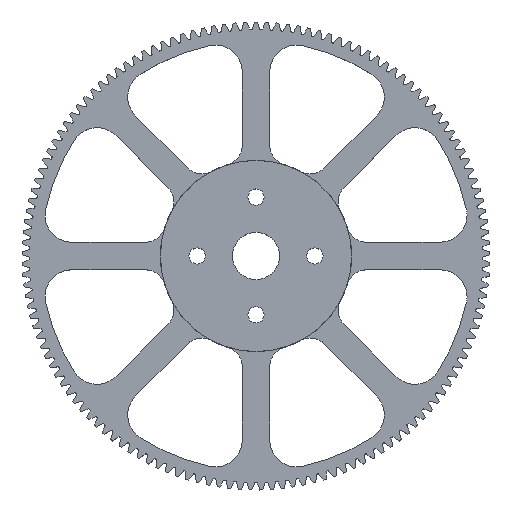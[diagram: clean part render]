
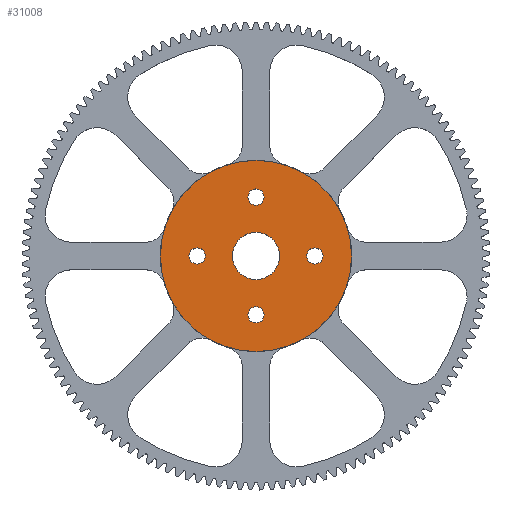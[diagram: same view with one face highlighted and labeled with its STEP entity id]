
A CAD part, top view. The second image highlights one B-rep face of the part: STEP entity #31008.
In plain terms, the highlighted planar face has unit normal (0, 0, 1).
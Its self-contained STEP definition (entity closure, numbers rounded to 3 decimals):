
#501 = ORIENTED_EDGE ( 'NONE', *, *, #28209, .F. ) ;
#664 = CARTESIAN_POINT ( 'NONE',  ( 0., -8.75, 3. ) ) ;
#763 = CARTESIAN_POINT ( 'NONE',  ( 1.2, 8.75, 3. ) ) ;
#882 = DIRECTION ( 'NONE',  ( 0., 0., 1. ) ) ;
#940 = CARTESIAN_POINT ( 'NONE',  ( -8.75, 0., 3. ) ) ;
#979 = CARTESIAN_POINT ( 'NONE',  ( 0., -8.75, 3. ) ) ;
#1459 = CARTESIAN_POINT ( 'NONE',  ( 0., 0., 3. ) ) ;
#1460 = CIRCLE ( 'NONE', #5504, 3.5 ) ;
#1646 = DIRECTION ( 'NONE',  ( 0., 0., -1. ) ) ;
#1820 = FACE_BOUND ( 'NONE', #27228, .T. ) ;
#1830 = CARTESIAN_POINT ( 'NONE',  ( 8.75, 0., 3. ) ) ;
#1998 = EDGE_CURVE ( 'NONE', #26619, #2327, #24384, .T. ) ;
#2170 = CIRCLE ( 'NONE', #7347, 1.2 ) ;
#2327 = VERTEX_POINT ( 'NONE', #14319 ) ;
#2489 = EDGE_LOOP ( 'NONE', ( #14530, #25233 ) ) ;
#2741 = DIRECTION ( 'NONE',  ( -1., 0., 0. ) ) ;
#3778 = CARTESIAN_POINT ( 'NONE',  ( 1.2, -8.75, 3. ) ) ;
#4075 = VERTEX_POINT ( 'NONE', #27368 ) ;
#4121 = AXIS2_PLACEMENT_3D ( 'NONE', #8763, #13867, #5882 ) ;
#5134 = DIRECTION ( 'NONE',  ( -1., 0., 0. ) ) ;
#5251 = CIRCLE ( 'NONE', #4121, 14.2 ) ;
#5504 = AXIS2_PLACEMENT_3D ( 'NONE', #24469, #35500, #21750 ) ;
#5882 = DIRECTION ( 'NONE',  ( -1., 0., 0. ) ) ;
#6122 = DIRECTION ( 'NONE',  ( 1., 0., 0. ) ) ;
#6161 = FACE_BOUND ( 'NONE', #31251, .T. ) ;
#6233 = DIRECTION ( 'NONE',  ( -1., 0., 0. ) ) ;
#6323 = CARTESIAN_POINT ( 'NONE',  ( 9.95, 0., 3. ) ) ;
#6435 = CIRCLE ( 'NONE', #24962, 1.2 ) ;
#6909 = ORIENTED_EDGE ( 'NONE', *, *, #1998, .T. ) ;
#6928 = VERTEX_POINT ( 'NONE', #20624 ) ;
#7093 = DIRECTION ( 'NONE',  ( 0., 0., -1. ) ) ;
#7347 = AXIS2_PLACEMENT_3D ( 'NONE', #7803, #13061, #2741 ) ;
#7499 = CIRCLE ( 'NONE', #32404, 3.5 ) ;
#7803 = CARTESIAN_POINT ( 'NONE',  ( 0., 8.75, 3. ) ) ;
#8141 = AXIS2_PLACEMENT_3D ( 'NONE', #26342, #26876, #5134 ) ;
#8300 = VERTEX_POINT ( 'NONE', #29583 ) ;
#8494 = EDGE_LOOP ( 'NONE', ( #16993, #17592 ) ) ;
#8564 = VERTEX_POINT ( 'NONE', #3778 ) ;
#8763 = CARTESIAN_POINT ( 'NONE',  ( 0., 0., 3. ) ) ;
#8776 = DIRECTION ( 'NONE',  ( 0., 0., -1. ) ) ;
#8959 = DIRECTION ( 'NONE',  ( -1., 0., 0. ) ) ;
#8986 = DIRECTION ( 'NONE',  ( 0., 0., -1. ) ) ;
#9042 = EDGE_CURVE ( 'NONE', #8564, #8300, #10826, .T. ) ;
#9107 = DIRECTION ( 'NONE',  ( 0., 0., -1. ) ) ;
#9606 = ORIENTED_EDGE ( 'NONE', *, *, #25552, .F. ) ;
#9741 = VERTEX_POINT ( 'NONE', #763 ) ;
#10301 = DIRECTION ( 'NONE',  ( -1., 0., 0. ) ) ;
#10826 = CIRCLE ( 'NONE', #35731, 1.2 ) ;
#11733 = CARTESIAN_POINT ( 'NONE',  ( 0., 0., 3. ) ) ;
#12332 = DIRECTION ( 'NONE',  ( -1., 0., 0. ) ) ;
#13035 = DIRECTION ( 'NONE',  ( 0., 0., -1. ) ) ;
#13061 = DIRECTION ( 'NONE',  ( 0., 0., -1. ) ) ;
#13248 = VERTEX_POINT ( 'NONE', #18002 ) ;
#13867 = DIRECTION ( 'NONE',  ( 0., 0., -1. ) ) ;
#14285 = ORIENTED_EDGE ( 'NONE', *, *, #27354, .T. ) ;
#14319 = CARTESIAN_POINT ( 'NONE',  ( -9.95, 0., 3. ) ) ;
#14462 = CARTESIAN_POINT ( 'NONE',  ( 8.75, 0., 3. ) ) ;
#14530 = ORIENTED_EDGE ( 'NONE', *, *, #18059, .T. ) ;
#14642 = AXIS2_PLACEMENT_3D ( 'NONE', #1830, #13035, #32449 ) ;
#14765 = VERTEX_POINT ( 'NONE', #23772 ) ;
#15054 = ORIENTED_EDGE ( 'NONE', *, *, #28490, .F. ) ;
#15792 = DIRECTION ( 'NONE',  ( -1., 0., 0. ) ) ;
#16641 = CARTESIAN_POINT ( 'NONE',  ( 3.5, 0., 3. ) ) ;
#16993 = ORIENTED_EDGE ( 'NONE', *, *, #30134, .T. ) ;
#17592 = ORIENTED_EDGE ( 'NONE', *, *, #21834, .T. ) ;
#18002 = CARTESIAN_POINT ( 'NONE',  ( -3.5, 0., 3. ) ) ;
#18059 = EDGE_CURVE ( 'NONE', #8300, #8564, #25193, .T. ) ;
#18200 = CIRCLE ( 'NONE', #31513, 1.2 ) ;
#18508 = DIRECTION ( 'NONE',  ( 0., 0., -1. ) ) ;
#18816 = EDGE_LOOP ( 'NONE', ( #19386, #23576 ) ) ;
#19386 = ORIENTED_EDGE ( 'NONE', *, *, #32139, .T. ) ;
#19969 = FACE_BOUND ( 'NONE', #8494, .T. ) ;
#20081 = DIRECTION ( 'NONE',  ( -1., 0., 0. ) ) ;
#20624 = CARTESIAN_POINT ( 'NONE',  ( 7.55, 0., 3. ) ) ;
#21056 = FACE_BOUND ( 'NONE', #18816, .T. ) ;
#21750 = DIRECTION ( 'NONE',  ( 1., 0., 0. ) ) ;
#21834 = EDGE_CURVE ( 'NONE', #9741, #24873, #2170, .T. ) ;
#22642 = EDGE_LOOP ( 'NONE', ( #15054, #501 ) ) ;
#22780 = DIRECTION ( 'NONE',  ( 0., 0., -1. ) ) ;
#23029 = VERTEX_POINT ( 'NONE', #6323 ) ;
#23576 = ORIENTED_EDGE ( 'NONE', *, *, #34323, .T. ) ;
#23772 = CARTESIAN_POINT ( 'NONE',  ( 14.2, 0., 3. ) ) ;
#23942 = FACE_OUTER_BOUND ( 'NONE', #22642, .T. ) ;
#24384 = CIRCLE ( 'NONE', #27835, 1.2 ) ;
#24469 = CARTESIAN_POINT ( 'NONE',  ( 0., 0., 3. ) ) ;
#24873 = VERTEX_POINT ( 'NONE', #25276 ) ;
#24962 = AXIS2_PLACEMENT_3D ( 'NONE', #27473, #8776, #27836 ) ;
#25021 = AXIS2_PLACEMENT_3D ( 'NONE', #1459, #1646, #10301 ) ;
#25193 = CIRCLE ( 'NONE', #29821, 1.2 ) ;
#25233 = ORIENTED_EDGE ( 'NONE', *, *, #9042, .T. ) ;
#25276 = CARTESIAN_POINT ( 'NONE',  ( -1.2, 8.75, 3. ) ) ;
#25552 = EDGE_CURVE ( 'NONE', #27900, #13248, #7499, .T. ) ;
#25851 = ORIENTED_EDGE ( 'NONE', *, *, #35241, .F. ) ;
#26342 = CARTESIAN_POINT ( 'NONE',  ( 0., 0., 3. ) ) ;
#26619 = VERTEX_POINT ( 'NONE', #34756 ) ;
#26836 = CARTESIAN_POINT ( 'NONE',  ( -8.75, 0., 3. ) ) ;
#26876 = DIRECTION ( 'NONE',  ( 0., 0., -1. ) ) ;
#27228 = EDGE_LOOP ( 'NONE', ( #25851, #9606 ) ) ;
#27354 = EDGE_CURVE ( 'NONE', #2327, #26619, #28347, .T. ) ;
#27368 = CARTESIAN_POINT ( 'NONE',  ( -14.2, 0., 3. ) ) ;
#27473 = CARTESIAN_POINT ( 'NONE',  ( 0., 8.75, 3. ) ) ;
#27835 = AXIS2_PLACEMENT_3D ( 'NONE', #940, #7093, #12332 ) ;
#27836 = DIRECTION ( 'NONE',  ( -1., 0., 0. ) ) ;
#27900 = VERTEX_POINT ( 'NONE', #16641 ) ;
#28209 = EDGE_CURVE ( 'NONE', #14765, #4075, #5251, .T. ) ;
#28289 = FACE_BOUND ( 'NONE', #2489, .T. ) ;
#28347 = CIRCLE ( 'NONE', #30689, 1.2 ) ;
#28490 = EDGE_CURVE ( 'NONE', #4075, #14765, #35363, .T. ) ;
#29010 = PLANE ( 'NONE',  #25021 ) ;
#29583 = CARTESIAN_POINT ( 'NONE',  ( -1.2, -8.75, 3. ) ) ;
#29821 = AXIS2_PLACEMENT_3D ( 'NONE', #979, #9107, #6233 ) ;
#30134 = EDGE_CURVE ( 'NONE', #24873, #9741, #6435, .T. ) ;
#30689 = AXIS2_PLACEMENT_3D ( 'NONE', #26836, #18508, #15792 ) ;
#30847 = CIRCLE ( 'NONE', #14642, 1.2 ) ;
#31008 = ADVANCED_FACE ( 'NONE', ( #19969, #6161, #28289, #21056, #23942, #1820 ), #29010, .F. ) ;
#31251 = EDGE_LOOP ( 'NONE', ( #14285, #6909 ) ) ;
#31513 = AXIS2_PLACEMENT_3D ( 'NONE', #14462, #8986, #20081 ) ;
#32139 = EDGE_CURVE ( 'NONE', #6928, #23029, #30847, .T. ) ;
#32404 = AXIS2_PLACEMENT_3D ( 'NONE', #11733, #882, #6122 ) ;
#32449 = DIRECTION ( 'NONE',  ( -1., 0., 0. ) ) ;
#34323 = EDGE_CURVE ( 'NONE', #23029, #6928, #18200, .T. ) ;
#34756 = CARTESIAN_POINT ( 'NONE',  ( -7.55, 0., 3. ) ) ;
#35241 = EDGE_CURVE ( 'NONE', #13248, #27900, #1460, .T. ) ;
#35363 = CIRCLE ( 'NONE', #8141, 14.2 ) ;
#35500 = DIRECTION ( 'NONE',  ( 0., 0., 1. ) ) ;
#35731 = AXIS2_PLACEMENT_3D ( 'NONE', #664, #22780, #8959 ) ;
